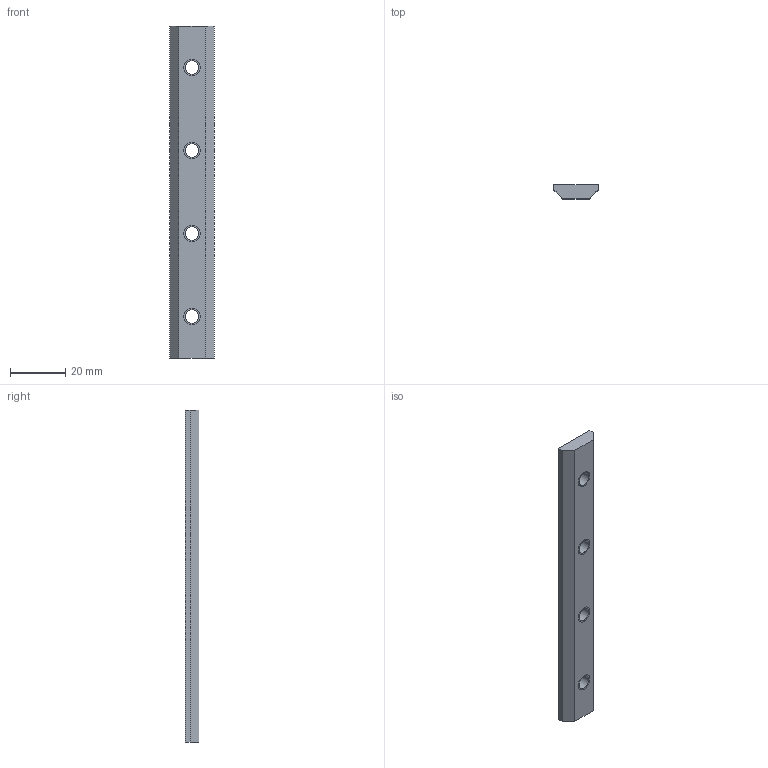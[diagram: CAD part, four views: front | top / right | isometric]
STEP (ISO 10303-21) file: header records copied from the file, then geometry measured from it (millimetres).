
FILE_DESCRIPTION((''),'2;1');
FILE_NAME('GIL3030','2002-12-27T',('Lipro doo'),('Lipro d.o.o.'),'PRO/ENGINEER BY PARAMETRIC TECHNOLOGY CORPORATION, 2001150','PRO/ENGINEER BY PARAMETRIC TECHNOLOGY CORPORATION, 2001150','');
FILE_SCHEMA(('CONFIG_CONTROL_DESIGN'));
Length unit declared in the file: millimetre
Products named in the file (1): GIL3030
Bounding box: 16 x 5 x 120 mm (x, y, z)
Volume: 7965.2 mm3; surface area: 5233.3 mm2
Topology: 1 solids, 5 shells, 32 faces, 82 edges, 52 vertices
Faces by surface type: cylinder 16, plane 8, cone 8
Entity records: 1033 total; most frequent: DIRECTION 188, CARTESIAN_POINT 167, ORIENTED_EDGE 148, EDGE_CURVE 82, AXIS2_PLACEMENT_3D 73, VERTEX_POINT 52, VECTOR 42, LINE 42
